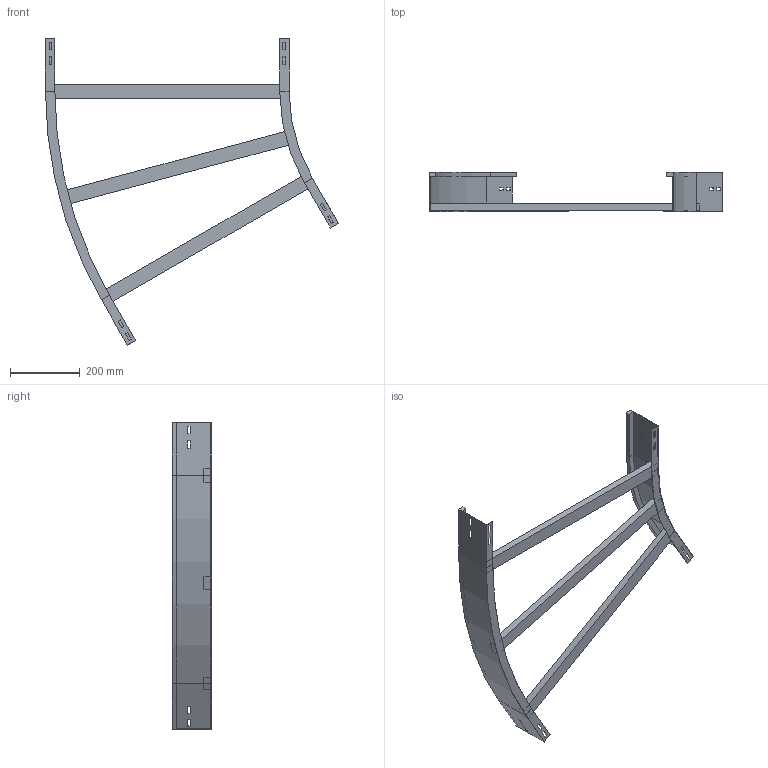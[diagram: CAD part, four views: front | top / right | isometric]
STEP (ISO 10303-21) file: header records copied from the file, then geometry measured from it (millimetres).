
FILE_DESCRIPTION (( 'STEP AP214' ), '1' );
FILE_NAME ('12B5J700.step', '2025-02-21T15:08:33', ( '' ), ( '' ), 'SwSTEP 2.0', 'SolidWorks 2023', '' );
FILE_SCHEMA (( 'AUTOMOTIVE_DESIGN' ));
Length unit declared in the file: millimetre
Products named in the file (4): A2_LONGH.ESTERNO 30°_H112.5_R500+700; TRAVERSINO_700; A2_LONGH.INTERNO 30°_H112.5_R500; 12B5J700
Assembly tree (5 placements, depth 2):
  12B5J700
    A2_LONGH.INTERNO 30°_H112.5_R500
    A2_LONGH.ESTERNO 30°_H112.5_R500+700
    TRAVERSINO_700  x3
Bounding box: 841.99 x 112.5 x 879.9 mm (x, y, z)
Volume: 2382237.1 mm3; surface area: 719730.7 mm2
Topology: 5 solids, 5 shells, 134 faces, 340 edges, 216 vertices
Faces by surface type: plane 126, cylinder 8
Entity records: 3821 total; most frequent: CARTESIAN_POINT 646, ORIENTED_EDGE 632, DIRECTION 592, EDGE_CURVE 316, LINE 300, VECTOR 300, VERTEX_POINT 200, EDGE_LOOP 154
